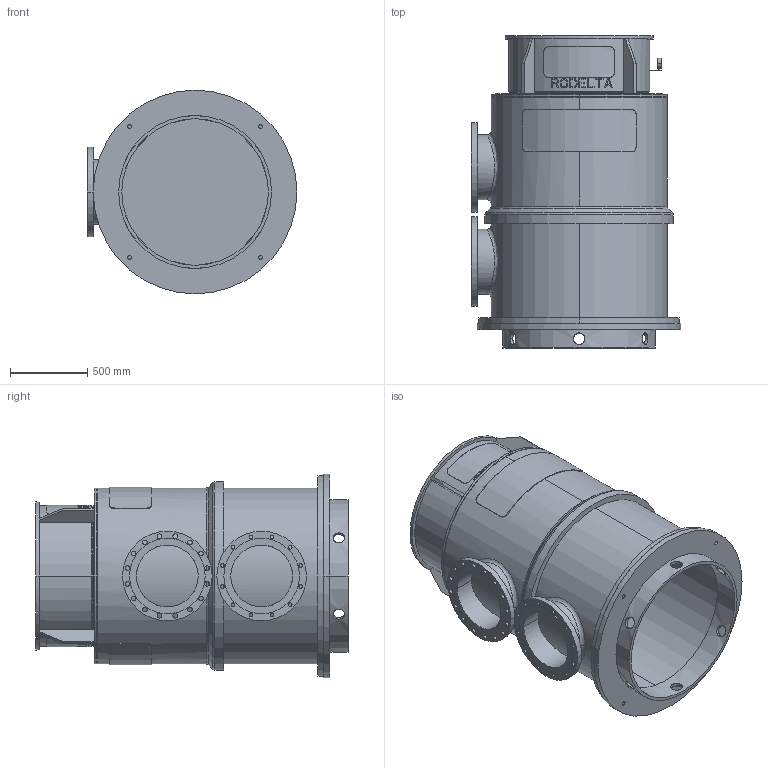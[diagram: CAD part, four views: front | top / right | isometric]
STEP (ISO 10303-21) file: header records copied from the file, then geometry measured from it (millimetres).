
FILE_DESCRIPTION((''),'2;1');
FILE_NAME('LS16_1TR_0GR_UPTO','2023-08-24T',('Lyritlocal'),(''),'PRO/ENGINEER BY PARAMETRIC TECHNOLOGY CORPORATION, 2016360','PRO/ENGINEER BY PARAMETRIC TECHNOLOGY CORPORATION, 2016360','');
FILE_SCHEMA(('CONFIG_CONTROL_DESIGN'));
Length unit declared in the file: millimetre
Products named in the file (1): LS16_1TR_0GR_UPTO
Bounding box: 1360 x 2022.5 x 1320 mm (x, y, z)
Volume: 170772247.6 mm3; surface area: 20216192.6 mm2
Topology: 3 solids, 3 shells, 564 faces, 1497 edges, 984 vertices
Faces by surface type: plane 346, cylinder 196, cone 14, bspline 4, torus 4
Entity records: 18911 total; most frequent: CARTESIAN_POINT 5089, ORIENTED_EDGE 2994, DIRECTION 2647, EDGE_CURVE 1497, AXIS2_PLACEMENT_3D 996, VERTEX_POINT 984, EDGE_LOOP 689, VECTOR 655
